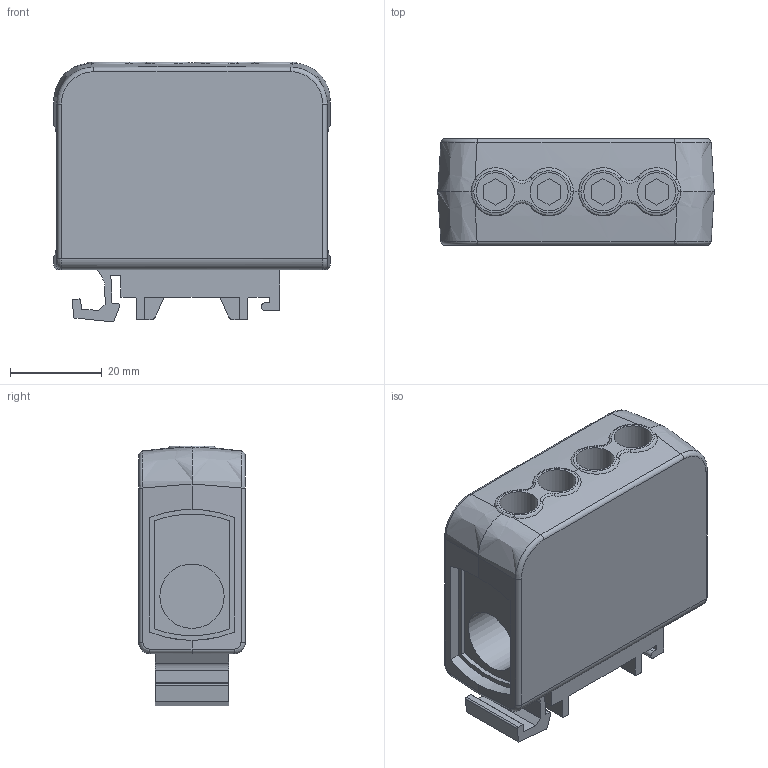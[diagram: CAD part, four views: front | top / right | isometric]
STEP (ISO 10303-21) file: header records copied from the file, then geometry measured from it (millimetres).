
FILE_DESCRIPTION(/* description */ ('Unknown'),/* implementation_level */ '2;1');
FILE_NAME(/* name */ 'utb 70_2x35',/* time_stamp */ '2021-04-01T13:09:30+02:00',/* author */ ('Unknown'),/* organization */ ('Unknown'),/* preprocessor_version */ 'ST-DEVELOPER v16.7',/* originating_system */ 'Solid Edge',/* authorisation */ 'Unknown');
FILE_SCHEMA (('AUTOMOTIVE_DESIGN {1 0 10303 214 3 1 1}'));
Length unit declared in the file: millimetre
Products named in the file (1): utb 70_2x35
Bounding box: 60.1 x 23.2 x 56.55 mm (x, y, z)
Volume: 56897.3 mm3; surface area: 13902.3 mm2
Topology: 1 solids, 1 shells, 164 faces, 419 edges, 271 vertices
Faces by surface type: plane 92, cylinder 40, bspline 28, torus 4
Full cylindrical faces by diameter (mm): 8.3 x4, 10 x2, 14 x1
Entity records: 5359 total; most frequent: CARTESIAN_POINT 1523, ORIENTED_EDGE 818, DIRECTION 736, EDGE_CURVE 409, VERTEX_POINT 268, LINE 248, VECTOR 248, AXIS2_PLACEMENT_3D 244
